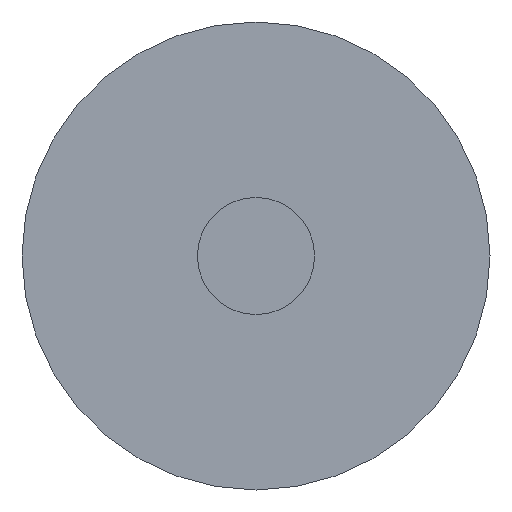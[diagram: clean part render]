
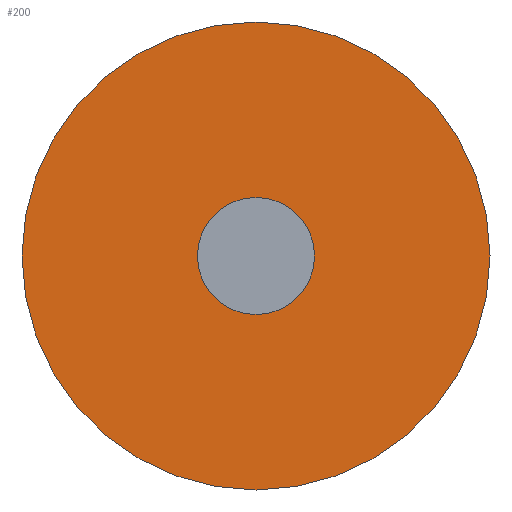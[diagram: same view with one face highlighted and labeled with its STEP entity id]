
A CAD part, front view. The second image highlights one B-rep face of the part: STEP entity #200.
In plain terms, the highlighted planar face has unit normal (0, -1, 0).
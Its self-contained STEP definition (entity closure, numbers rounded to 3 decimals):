
#17 = CIRCLE ( 'NONE', #172, 10. ) ;
#25 = CIRCLE ( 'NONE', #167, 2.5 ) ;
#27 = EDGE_LOOP ( 'NONE', ( #42, #82 ) ) ;
#42 = ORIENTED_EDGE ( 'NONE', *, *, #191, .F. ) ;
#57 = ORIENTED_EDGE ( 'NONE', *, *, #144, .F. ) ;
#65 = CIRCLE ( 'NONE', #179, 2.5 ) ;
#76 = ORIENTED_EDGE ( 'NONE', *, *, #169, .F. ) ;
#82 = ORIENTED_EDGE ( 'NONE', *, *, #146, .F. ) ;
#86 = CIRCLE ( 'NONE', #188, 10. ) ;
#90 = FACE_OUTER_BOUND ( 'NONE', #91, .T. ) ;
#91 = EDGE_LOOP ( 'NONE', ( #76, #57 ) ) ;
#97 = FACE_BOUND ( 'NONE', #27, .T. ) ;
#102 = CARTESIAN_POINT ( 'NONE',  ( 0., -2., 0. ) ) ;
#103 = DIRECTION ( 'NONE',  ( 0., 1., 0. ) ) ;
#104 = DIRECTION ( 'NONE',  ( 0., 0., 1. ) ) ;
#109 = VERTEX_POINT ( 'NONE', #114 ) ;
#110 = VERTEX_POINT ( 'NONE', #115 ) ;
#113 = VERTEX_POINT ( 'NONE', #134 ) ;
#114 = CARTESIAN_POINT ( 'NONE',  ( 0., -2., -10. ) ) ;
#115 = CARTESIAN_POINT ( 'NONE',  ( 0., -2., -2.5 ) ) ;
#118 = CARTESIAN_POINT ( 'NONE',  ( 0., -2., 0. ) ) ;
#120 = CARTESIAN_POINT ( 'NONE',  ( 0., -2., 0. ) ) ;
#122 = CARTESIAN_POINT ( 'NONE',  ( 0., -2., 0. ) ) ;
#124 = DIRECTION ( 'NONE',  ( 0., 1., 0. ) ) ;
#125 = DIRECTION ( 'NONE',  ( 0., 0., 1. ) ) ;
#129 = DIRECTION ( 'NONE',  ( 0., -1., 0. ) ) ;
#132 = CARTESIAN_POINT ( 'NONE',  ( 0., -2., 2.5 ) ) ;
#134 = CARTESIAN_POINT ( 'NONE',  ( 0., -2., 10. ) ) ;
#135 = VERTEX_POINT ( 'NONE', #132 ) ;
#144 = EDGE_CURVE ( 'NONE', #109, #113, #17, .T. ) ;
#146 = EDGE_CURVE ( 'NONE', #110, #135, #25, .T. ) ;
#147 = AXIS2_PLACEMENT_3D ( 'NONE', #102, #103, #104 ) ;
#167 = AXIS2_PLACEMENT_3D ( 'NONE', #243, #244, #245 ) ;
#169 = EDGE_CURVE ( 'NONE', #113, #109, #86, .T. ) ;
#172 = AXIS2_PLACEMENT_3D ( 'NONE', #118, #238, #239 ) ;
#179 = AXIS2_PLACEMENT_3D ( 'NONE', #120, #129, #229 ) ;
#188 = AXIS2_PLACEMENT_3D ( 'NONE', #122, #124, #125 ) ;
#191 = EDGE_CURVE ( 'NONE', #135, #110, #65, .T. ) ;
#200 = ADVANCED_FACE ( 'NONE', ( #90, #97 ), #236, .F. ) ;
#229 = DIRECTION ( 'NONE',  ( 0., 0., 1. ) ) ;
#236 = PLANE ( 'NONE',  #147 ) ;
#238 = DIRECTION ( 'NONE',  ( 0., 1., 0. ) ) ;
#239 = DIRECTION ( 'NONE',  ( 0., 0., 1. ) ) ;
#243 = CARTESIAN_POINT ( 'NONE',  ( 0., -2., 0. ) ) ;
#244 = DIRECTION ( 'NONE',  ( 0., -1., 0. ) ) ;
#245 = DIRECTION ( 'NONE',  ( 0., 0., 1. ) ) ;
